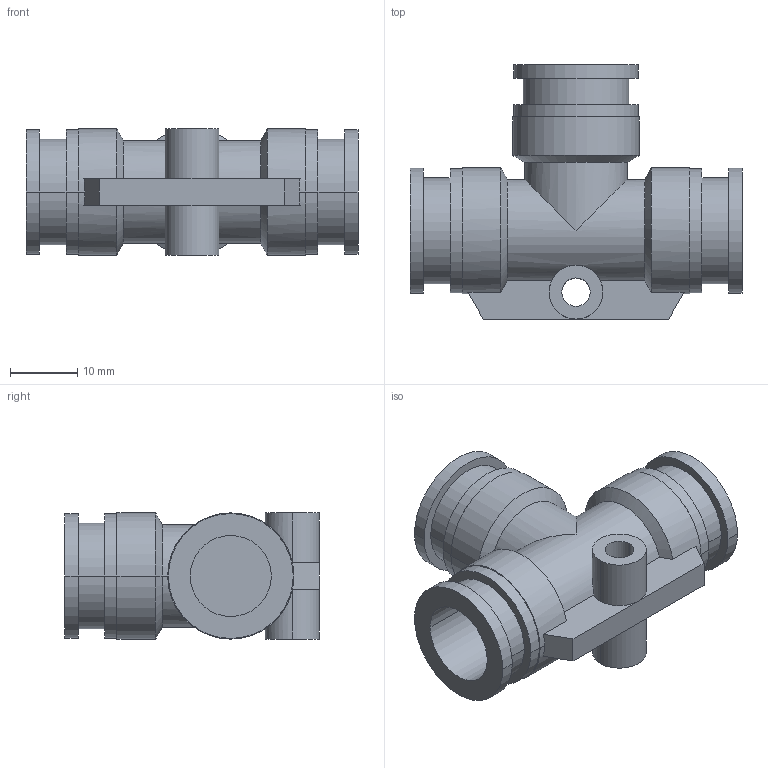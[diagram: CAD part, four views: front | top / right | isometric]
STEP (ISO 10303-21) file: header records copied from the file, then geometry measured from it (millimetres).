
FILE_DESCRIPTION( ( '' ), '1' );
FILE_NAME( 'G:/SMC狟婥/KQ2T12-00A.stp', '2023-03-07T03:24:49', ( '' ), ( '' ), ' ', ' ', ' ' );
FILE_SCHEMA( ( 'CONFIG_CONTROL_DESIGN' ) );
Length unit declared in the file: millimetre
Products named in the file (1): 1
Bounding box: 49.2 x 37.7 x 18.7 mm (x, y, z)
Volume: 9809 mm3; surface area: 7777.2 mm2
Topology: 1 solids, 1 shells, 70 faces, 158 edges, 102 vertices
Faces by surface type: cylinder 40, plane 24, cone 6
Entity records: 2106 total; most frequent: CARTESIAN_POINT 413, DIRECTION 384, ORIENTED_EDGE 316, AXIS2_PLACEMENT_3D 161, EDGE_CURVE 158, VERTEX_POINT 102, EDGE_LOOP 84, CIRCLE 82
